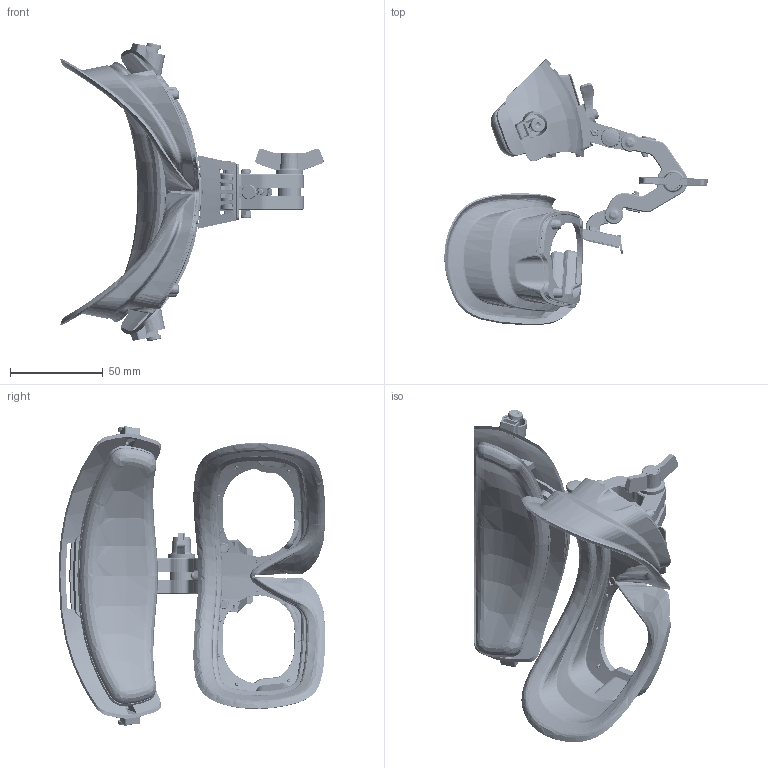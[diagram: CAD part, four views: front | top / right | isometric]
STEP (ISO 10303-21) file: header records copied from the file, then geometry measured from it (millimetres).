
FILE_DESCRIPTION (( 'STEP AP214' ), '1' );
FILE_NAME ('Halo Mount w Flip Assembly-0710-25.STEP', '2025-10-07T06:31:50', ( '' ), ( '' ), 'SwSTEP 2.0', 'SolidWorks 2025', '' );
FILE_SCHEMA (( 'AUTOMOTIVE_DESIGN' ));
Length unit declared in the file: millimetre
Products named in the file (42): GC Sledge Link V1; GC Pillow Cushion V1; GC Cushion Silicone V1; GC Link Pin V1; Halo FH Sledge V09; GC Frame Fix Adhesive V1; Halo FH Sledge Latch V09; 4232-Lesjofors_4232-Lesjofors; GC F Link R V1; GC Link Cap V1; GC Pillow Frame V1; GC F Link L V1; GC Link Knop V2; GC Link Push Rod V1; Halo Mount w Flip Assembly-0710-25; GC Frame Fix V1; GC Cushion Assembly V1; GC Frame Fix Assembly V1; GC Link Push Screw V1; Halo FH Swivel Lock V09; Frame Strap Cap V1.SLDPRT; GC Sledge Cap L V1; Halo FH Swivel Button V09; GC Frame V1; Halo FH Link Base V09; GC Link Push Washer V1; Screw KN6039 2x6 - T6 STP390200060B; M3x24 Hexalobular socket (Torx) pan head screw ISO 14583 Zn_M 3x 10; Halo FH Sledge Latch Slider V09; 2301-Lesjofors; SKNTR3-M3 nut; GC Flip Assembly; GC Pillow Assembly V1; GC Sledge Cap R V1; Pin 2mm; GC Cushion Frame V1; GC Frame Link V2.2; Magnet S-03-02-N; M3 DIN 985 Lock Nut; Circlip D2 NETW2 Misumi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
Assembly tree (64 placements, depth 3):
  Halo Mount w Flip Assembly-0710-25
    Halo FH Link Base V09
    Halo FH Sledge V09
    GC Sledge Link V1
    GC Sledge Cap R V1
    GC Sledge Cap L V1
    Halo FH Swivel Lock V09
    Halo FH Swivel Button V09
    Halo FH Sledge Latch V09
    Halo FH Sledge Latch Slider V09
    Pin 2mm
    GC Flip Assembly
      GC F Link R V1
      GC F Link L V1
      GC Link Pin V1  x2
      Circlip D2 NETW2 Misumi  x2
      GC Link Knop V2
      GC Link Cap V1
      GC Link Push Rod V1
      GC Link Push Screw V1
      GC Link Push Washer V1
      SKNTR3-M3 nut
    GC Cushion Assembly V1
      GC Cushion Frame V1
      Magnet S-03-02-N  x6
      GC Cushion Silicone V1
    GC Frame Link V2.2
    GC Frame Fix Assembly V1
      GC Frame Fix V1
      GC Frame Fix Adhesive V1
    GC Frame Assembly V1
      GC Frame V1
      Frame Strap Cap V1.SLDPRT  x2
      Screw KN6039 2x6 - T6 STP390200060B  x2
    GC Pillow Assembly V1
      GC Pillow Frame V1
      GC Pillow Cushion V1
    4232-Lesjofors_4232-Lesjofors  x10
    Screw KN6039 2x6 - T6 STP390200060B  x2
    SKNTR3-M3 nut
    M3x14 Hexalobular socket (Torx) pan head screw ISO 14583 Zn_M 3x 10
    2301-Lesjofors
    M3 DIN 985 Lock Nut  x2
    M3x24 Hexalobular socket (Torx) pan head screw ISO 14583 Zn_M 3x 10  x2
Bounding box: 141.91 x 143.86 x 161.25 mm (x, y, z)
Volume: 107166.6 mm3; surface area: 140397.9 mm2
Topology: 64 solids, 64 shells, 2948 faces, 7597 edges, 4976 vertices
Faces by surface type: bspline 1132, plane 762, cylinder 557, cone 395, torus 71, sphere 31
Full cylindrical faces by diameter (mm): 1.5 x12, 1.65 x2, 1.95 x2, 2 x3, 2.2 x2, 2.459 x2, 2.529 x4, 2.86 x2, 2.95 x4, 3 x24, 3.05 x4, 3.1 x5, 4 x1, 4.1 x2, 4.675 x4, 5.5 x2, 5.6 x3, 6.6 x2, 8 x2, 10 x1, 11.2 x1, 12.6 x1, 12.8 x1, 13.8 x1
Entity records: 241818 total; most frequent: CARTESIAN_POINT 188177, ORIENTED_EDGE 11954, DIRECTION 7005, EDGE_CURVE 5977, VERTEX_POINT 3944, B_SPLINE_CURVE_WITH_KNOTS 2952, EDGE_LOOP 2933, AXIS2_PLACEMENT_3D 2635
